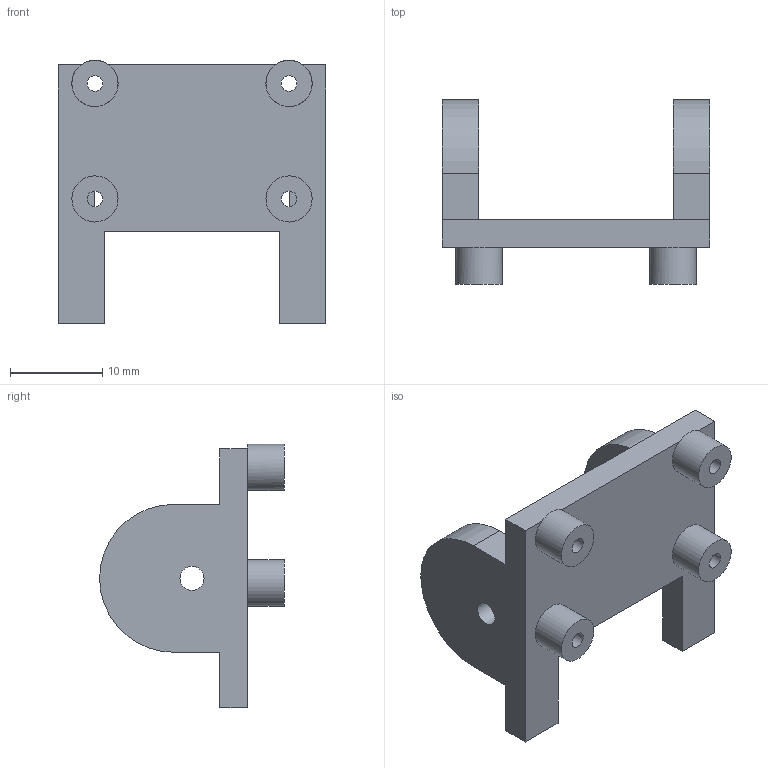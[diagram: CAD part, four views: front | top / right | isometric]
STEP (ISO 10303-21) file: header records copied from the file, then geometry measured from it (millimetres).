
FILE_DESCRIPTION(('Open CASCADE Model'),'2;1');
FILE_NAME('Open CASCADE Shape Model','2026-10-05T16:07:19',('Author'),( 'Open CASCADE'),'Open CASCADE STEP processor 7.9','Open CASCADE 7.9' ,'Unknown');
FILE_SCHEMA(('AUTOMOTIVE_DESIGN { 1 0 10303 214 1 1 1 1 }'));
Length unit declared in the file: millimetre
Products named in the file (1): Open CASCADE STEP translator 7.9 5
Bounding box: 29 x 20 x 28.5 mm (x, y, z)
Volume: 3518.4 mm3; surface area: 2956.6 mm2
Topology: 1 solids, 1 shells, 36 faces, 92 edges, 58 vertices
Faces by surface type: plane 24, cylinder 12
Full cylindrical faces by diameter (mm): 1.7 x4, 2.6 x2, 5 x4
Entity records: 2320 total; most frequent: CARTESIAN_POINT 475, DIRECTION 336, ORIENTED_EDGE 184, LINE 184, VECTOR 184, PCURVE 184, DEFINITIONAL_REPRESENTATION 184, EDGE_CURVE 92
